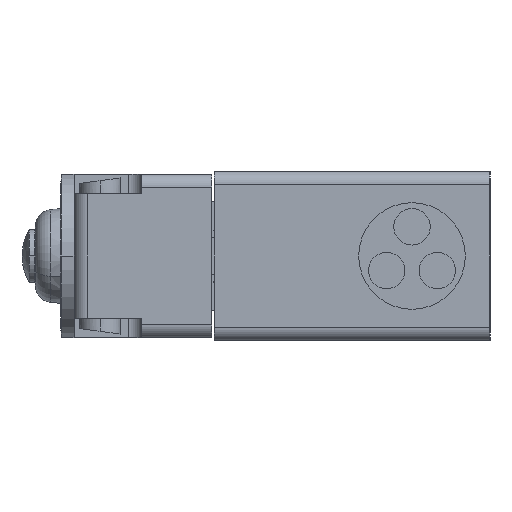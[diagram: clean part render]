
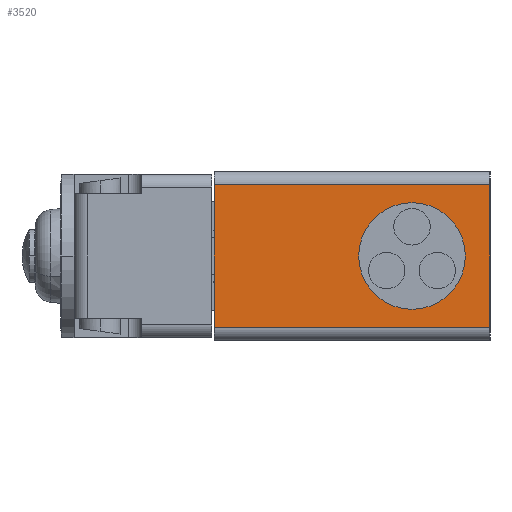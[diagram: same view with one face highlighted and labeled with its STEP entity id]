
A CAD part, left-side view. The second image highlights one B-rep face of the part: STEP entity #3520.
In plain terms, the highlighted planar face has unit normal (-1, 0, 0).
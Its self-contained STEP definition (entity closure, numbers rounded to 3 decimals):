
#1093 = DIRECTION ( 'NONE',  ( 0., 1., 0. ) ) ;
#1094 = VECTOR ( 'NONE', #1093, 1000. ) ;
#1095 = CARTESIAN_POINT ( 'NONE',  ( -9.847, 4.37, 1.535 ) ) ;
#1096 = LINE ( 'NONE', #1095, #1094 ) ;
#1169 = CARTESIAN_POINT ( 'NONE',  ( -9.847, 3.47, 1.535 ) ) ;
#1170 = CARTESIAN_POINT ( 'NONE',  ( -9.847, -7.13, 1.535 ) ) ;
#1497 = CARTESIAN_POINT ( 'NONE',  ( -9.847, 3.47, -3.965 ) ) ;
#1498 = DIRECTION ( 'NONE',  ( 0., -1., 0. ) ) ;
#1499 = VECTOR ( 'NONE', #1498, 1000. ) ;
#1500 = CARTESIAN_POINT ( 'NONE',  ( -9.847, 4.37, -3.965 ) ) ;
#1501 = LINE ( 'NONE', #1500, #1499 ) ;
#1547 = DIRECTION ( 'NONE',  ( 0., 1., 0. ) ) ;
#1548 = DIRECTION ( 'NONE',  ( 1., 0., 0. ) ) ;
#1549 = CARTESIAN_POINT ( 'NONE',  ( -9.847, 4.37, 2.035 ) ) ;
#1550 = AXIS2_PLACEMENT_3D ( 'NONE', #1549, #1548, #1547 ) ;
#1551 = PLANE ( 'NONE',  #1550 ) ;
#1553 = FACE_OUTER_BOUND ( 'NONE', #3521, .T. ) ;
#1714 = DIRECTION ( 'NONE',  ( 0., 0., 1. ) ) ;
#1715 = VECTOR ( 'NONE', #1714, 1000. ) ;
#1716 = CARTESIAN_POINT ( 'NONE',  ( -9.847, 3.47, -1.215 ) ) ;
#1717 = LINE ( 'NONE', #1716, #1715 ) ;
#2003 = CARTESIAN_POINT ( 'NONE',  ( -9.847, -7.13, -3.965 ) ) ;
#2004 = DIRECTION ( 'NONE',  ( 0., 0., -1. ) ) ;
#2005 = VECTOR ( 'NONE', #2004, 1000. ) ;
#2006 = CARTESIAN_POINT ( 'NONE',  ( -9.847, -7.13, 2.035 ) ) ;
#2027 = LINE ( 'NONE', #2006, #2005 ) ;
#3347 = VERTEX_POINT ( 'NONE', #1170 ) ;
#3349 = VERTEX_POINT ( 'NONE', #1169 ) ;
#3376 = EDGE_CURVE ( 'NONE', #3347, #3349, #1096, .T. ) ;
#3520 = ADVANCED_FACE ( 'NONE', ( #1553 ), #1551, .F. ) ;
#3521 = EDGE_LOOP ( 'NONE', ( #3522, #3652, #3653, #3654 ) ) ;
#3522 = ORIENTED_EDGE ( 'NONE', *, *, #3651, .F. ) ;
#3561 = EDGE_CURVE ( 'NONE', #3562, #3789, #1501, .T. ) ;
#3562 = VERTEX_POINT ( 'NONE', #1497 ) ;
#3651 = EDGE_CURVE ( 'NONE', #3562, #3349, #1717, .T. ) ;
#3652 = ORIENTED_EDGE ( 'NONE', *, *, #3561, .T. ) ;
#3653 = ORIENTED_EDGE ( 'NONE', *, *, #3788, .F. ) ;
#3654 = ORIENTED_EDGE ( 'NONE', *, *, #3376, .T. ) ;
#3788 = EDGE_CURVE ( 'NONE', #3347, #3789, #2027, .T. ) ;
#3789 = VERTEX_POINT ( 'NONE', #2003 ) ;
